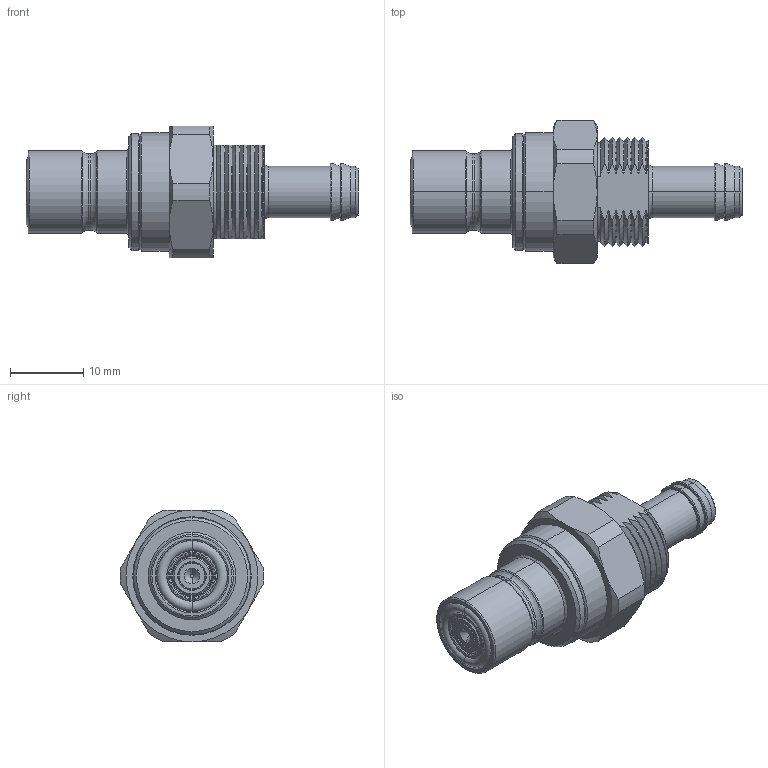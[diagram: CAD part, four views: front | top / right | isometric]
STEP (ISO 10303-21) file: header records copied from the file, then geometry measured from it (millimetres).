
FILE_DESCRIPTION (( 'STEP AP203' ), '1' );
FILE_NAME ('QD2-MT06-P.STEP', '2025-01-06T01:59:05', ( 'aksong' ), ( '' ), 'SwSTEP 2.0', 'SolidWorks 2012', '' );
FILE_SCHEMA (( 'CONFIG_CONTROL_DESIGN' ));
Length unit declared in the file: millimetre
Products named in the file (3): QD2-MT06-P; male body; 6mm panel¿ë barb, male ³ëÁñ
Assembly tree (2 placements, depth 2):
  QD2-MT06-P
    male body
    6mm panel¿ë barb, male ³ëÁñ
Bounding box: 45.38 x 19.59 x 18 mm (x, y, z)
Volume: 5023.5 mm3; surface area: 3277.1 mm2
Topology: 2 solids, 2 shells, 171 faces, 408 edges, 254 vertices
Faces by surface type: cone 68, cylinder 52, plane 29, torus 22
Entity records: 5421 total; most frequent: CARTESIAN_POINT 1134, DIRECTION 886, ORIENTED_EDGE 816, EDGE_CURVE 408, AXIS2_PLACEMENT_3D 382, VERTEX_POINT 254, CIRCLE 206, EDGE_LOOP 186
